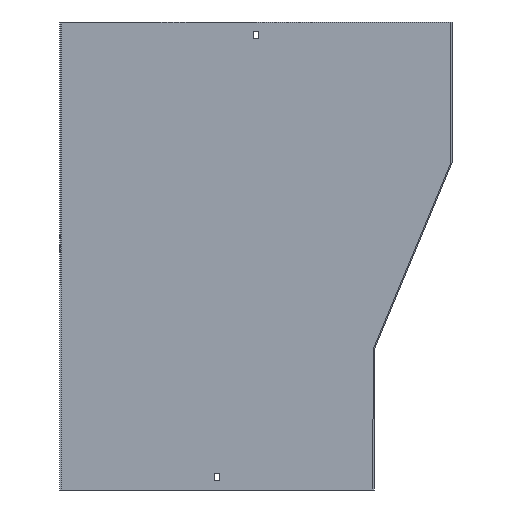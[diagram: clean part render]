
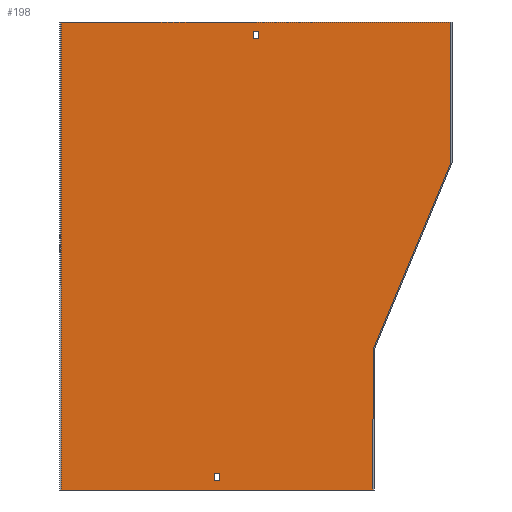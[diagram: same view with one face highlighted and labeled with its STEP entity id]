
A CAD part, front view. The second image highlights one B-rep face of the part: STEP entity #198.
In plain terms, the highlighted planar face has unit normal (0, -1, 0).
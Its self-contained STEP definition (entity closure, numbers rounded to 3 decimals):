
#4 = LINE ( 'NONE', #619, #212 ) ;
#8 = VECTOR ( 'NONE', #533, 1000. ) ;
#15 = EDGE_CURVE ( 'NONE', #605, #246, #378, .T. ) ;
#24 = EDGE_LOOP ( 'NONE', ( #584, #512, #666, #588, #439, #282 ) ) ;
#35 = VERTEX_POINT ( 'NONE', #597 ) ;
#37 = EDGE_CURVE ( 'NONE', #35, #605, #319, .T. ) ;
#43 = ORIENTED_EDGE ( 'NONE', *, *, #489, .F. ) ;
#59 = DIRECTION ( 'NONE',  ( 0., 0., -1. ) ) ;
#60 = CARTESIAN_POINT ( 'NONE',  ( 0., -1.5, 0. ) ) ;
#67 = CARTESIAN_POINT ( 'NONE',  ( 0., -1.5, -21. ) ) ;
#68 = ORIENTED_EDGE ( 'NONE', *, *, #595, .F. ) ;
#77 = CARTESIAN_POINT ( 'NONE',  ( 3.25, -1.5, -12. ) ) ;
#83 = VERTEX_POINT ( 'NONE', #153 ) ;
#92 = LINE ( 'NONE', #702, #8 ) ;
#96 = CARTESIAN_POINT ( 'NONE',  ( 251.5, -1.5, 0. ) ) ;
#109 = LINE ( 'NONE', #389, #585 ) ;
#113 = EDGE_CURVE ( 'NONE', #650, #118, #362, .T. ) ;
#118 = VERTEX_POINT ( 'NONE', #473 ) ;
#131 = VERTEX_POINT ( 'NONE', #663 ) ;
#134 = EDGE_CURVE ( 'NONE', #246, #83, #109, .T. ) ;
#153 = CARTESIAN_POINT ( 'NONE',  ( -46.75, -1.5, -579. ) ) ;
#159 = DIRECTION ( 'NONE',  ( 0., 0., 1. ) ) ;
#162 = LINE ( 'NONE', #488, #466 ) ;
#163 = EDGE_CURVE ( 'NONE', #591, #249, #498, .T. ) ;
#170 = FACE_OUTER_BOUND ( 'NONE', #24, .T. ) ;
#178 = EDGE_CURVE ( 'NONE', #646, #524, #4, .T. ) ;
#192 = CARTESIAN_POINT ( 'NONE',  ( -3.25, -1.5, -21. ) ) ;
#198 = ADVANCED_FACE ( 'NONE', ( #433, #222, #170 ), #441, .T. ) ;
#205 = CARTESIAN_POINT ( 'NONE',  ( 0., -1.5, -12. ) ) ;
#211 = DIRECTION ( 'NONE',  ( 0., 0., -1. ) ) ;
#212 = VECTOR ( 'NONE', #449, 1000. ) ;
#215 = EDGE_CURVE ( 'NONE', #524, #266, #162, .T. ) ;
#218 = CARTESIAN_POINT ( 'NONE',  ( 3.25, -1.5, -21. ) ) ;
#219 = CARTESIAN_POINT ( 'NONE',  ( 3.25, -1.5, 0. ) ) ;
#220 = ORIENTED_EDGE ( 'NONE', *, *, #163, .F. ) ;
#221 = CARTESIAN_POINT ( 'NONE',  ( -53.25, -1.5, -588. ) ) ;
#222 = FACE_BOUND ( 'NONE', #447, .T. ) ;
#241 = VECTOR ( 'NONE', #602, 1000. ) ;
#246 = VERTEX_POINT ( 'NONE', #337 ) ;
#249 = VERTEX_POINT ( 'NONE', #77 ) ;
#256 = DIRECTION ( 'NONE',  ( 1., 0., 0. ) ) ;
#259 = LINE ( 'NONE', #205, #560 ) ;
#266 = VERTEX_POINT ( 'NONE', #559 ) ;
#275 = VECTOR ( 'NONE', #476, 1000. ) ;
#280 = LINE ( 'NONE', #386, #241 ) ;
#282 = ORIENTED_EDGE ( 'NONE', *, *, #629, .F. ) ;
#285 = EDGE_CURVE ( 'NONE', #516, #591, #403, .T. ) ;
#287 = VECTOR ( 'NONE', #365, 1000. ) ;
#297 = ORIENTED_EDGE ( 'NONE', *, *, #285, .F. ) ;
#300 = CARTESIAN_POINT ( 'NONE',  ( -250., -1.5, 0. ) ) ;
#304 = CARTESIAN_POINT ( 'NONE',  ( -251.5, -1.5, -600. ) ) ;
#315 = DIRECTION ( 'NONE',  ( 0., 0., -1. ) ) ;
#319 = LINE ( 'NONE', #652, #615 ) ;
#324 = VERTEX_POINT ( 'NONE', #515 ) ;
#333 = EDGE_CURVE ( 'NONE', #324, #650, #454, .T. ) ;
#337 = CARTESIAN_POINT ( 'NONE',  ( -46.75, -1.5, -588. ) ) ;
#338 = CARTESIAN_POINT ( 'NONE',  ( -250., -1.5, 0. ) ) ;
#357 = LINE ( 'NONE', #304, #287 ) ;
#362 = LINE ( 'NONE', #96, #275 ) ;
#365 = DIRECTION ( 'NONE',  ( -1., 0., 0. ) ) ;
#378 = LINE ( 'NONE', #417, #438 ) ;
#386 = CARTESIAN_POINT ( 'NONE',  ( 250., -1.5, -180. ) ) ;
#388 = CARTESIAN_POINT ( 'NONE',  ( 250., -1.5, -179.7 ) ) ;
#389 = CARTESIAN_POINT ( 'NONE',  ( -46.75, -1.5, 0. ) ) ;
#391 = DIRECTION ( 'NONE',  ( 0., 0., 1. ) ) ;
#392 = EDGE_LOOP ( 'NONE', ( #404, #641, #683, #594 ) ) ;
#403 = LINE ( 'NONE', #67, #656 ) ;
#404 = ORIENTED_EDGE ( 'NONE', *, *, #37, .F. ) ;
#407 = DIRECTION ( 'NONE',  ( 1., 0., 0. ) ) ;
#417 = CARTESIAN_POINT ( 'NONE',  ( 0., -1.5, -588. ) ) ;
#428 = CARTESIAN_POINT ( 'NONE',  ( 150., -1.5, -419.7 ) ) ;
#433 = FACE_BOUND ( 'NONE', #392, .T. ) ;
#438 = VECTOR ( 'NONE', #256, 1000. ) ;
#439 = ORIENTED_EDGE ( 'NONE', *, *, #178, .F. ) ;
#441 = PLANE ( 'NONE',  #503 ) ;
#442 = EDGE_CURVE ( 'NONE', #83, #35, #92, .T. ) ;
#447 = EDGE_LOOP ( 'NONE', ( #68, #43, #220, #297 ) ) ;
#449 = DIRECTION ( 'NONE',  ( -0.385, 0., -0.923 ) ) ;
#454 = LINE ( 'NONE', #300, #647 ) ;
#462 = EDGE_CURVE ( 'NONE', #266, #324, #357, .T. ) ;
#466 = VECTOR ( 'NONE', #672, 1000. ) ;
#473 = CARTESIAN_POINT ( 'NONE',  ( 250., -1.5, 0. ) ) ;
#476 = DIRECTION ( 'NONE',  ( 1., 0., 0. ) ) ;
#488 = CARTESIAN_POINT ( 'NONE',  ( 150., -1.5, -600. ) ) ;
#489 = EDGE_CURVE ( 'NONE', #249, #131, #259, .T. ) ;
#491 = LINE ( 'NONE', #657, #625 ) ;
#498 = LINE ( 'NONE', #219, #525 ) ;
#503 = AXIS2_PLACEMENT_3D ( 'NONE', #60, #603, #211 ) ;
#512 = ORIENTED_EDGE ( 'NONE', *, *, #333, .F. ) ;
#515 = CARTESIAN_POINT ( 'NONE',  ( -250., -1.5, -600. ) ) ;
#516 = VERTEX_POINT ( 'NONE', #192 ) ;
#524 = VERTEX_POINT ( 'NONE', #428 ) ;
#525 = VECTOR ( 'NONE', #159, 1000. ) ;
#533 = DIRECTION ( 'NONE',  ( -1., 0., 0. ) ) ;
#559 = CARTESIAN_POINT ( 'NONE',  ( 150., -1.5, -600. ) ) ;
#560 = VECTOR ( 'NONE', #693, 1000. ) ;
#584 = ORIENTED_EDGE ( 'NONE', *, *, #113, .F. ) ;
#585 = VECTOR ( 'NONE', #391, 1000. ) ;
#588 = ORIENTED_EDGE ( 'NONE', *, *, #215, .F. ) ;
#591 = VERTEX_POINT ( 'NONE', #218 ) ;
#594 = ORIENTED_EDGE ( 'NONE', *, *, #15, .F. ) ;
#595 = EDGE_CURVE ( 'NONE', #131, #516, #491, .T. ) ;
#597 = CARTESIAN_POINT ( 'NONE',  ( -53.25, -1.5, -579. ) ) ;
#602 = DIRECTION ( 'NONE',  ( 0., 0., -1. ) ) ;
#603 = DIRECTION ( 'NONE',  ( 0., -1., 0. ) ) ;
#605 = VERTEX_POINT ( 'NONE', #221 ) ;
#615 = VECTOR ( 'NONE', #315, 1000. ) ;
#619 = CARTESIAN_POINT ( 'NONE',  ( 150.115, -1.5, -419.423 ) ) ;
#625 = VECTOR ( 'NONE', #59, 1000. ) ;
#629 = EDGE_CURVE ( 'NONE', #118, #646, #280, .T. ) ;
#631 = DIRECTION ( 'NONE',  ( 0., 0., 1. ) ) ;
#641 = ORIENTED_EDGE ( 'NONE', *, *, #442, .F. ) ;
#646 = VERTEX_POINT ( 'NONE', #388 ) ;
#647 = VECTOR ( 'NONE', #631, 1000. ) ;
#650 = VERTEX_POINT ( 'NONE', #338 ) ;
#652 = CARTESIAN_POINT ( 'NONE',  ( -53.25, -1.5, 0. ) ) ;
#656 = VECTOR ( 'NONE', #407, 1000. ) ;
#657 = CARTESIAN_POINT ( 'NONE',  ( -3.25, -1.5, 0. ) ) ;
#663 = CARTESIAN_POINT ( 'NONE',  ( -3.25, -1.5, -12. ) ) ;
#666 = ORIENTED_EDGE ( 'NONE', *, *, #462, .F. ) ;
#672 = DIRECTION ( 'NONE',  ( 0., 0., -1. ) ) ;
#683 = ORIENTED_EDGE ( 'NONE', *, *, #134, .F. ) ;
#693 = DIRECTION ( 'NONE',  ( -1., 0., 0. ) ) ;
#702 = CARTESIAN_POINT ( 'NONE',  ( 0., -1.5, -579. ) ) ;
